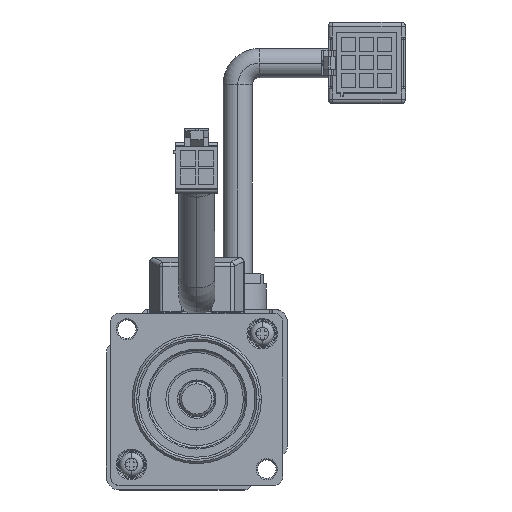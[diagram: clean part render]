
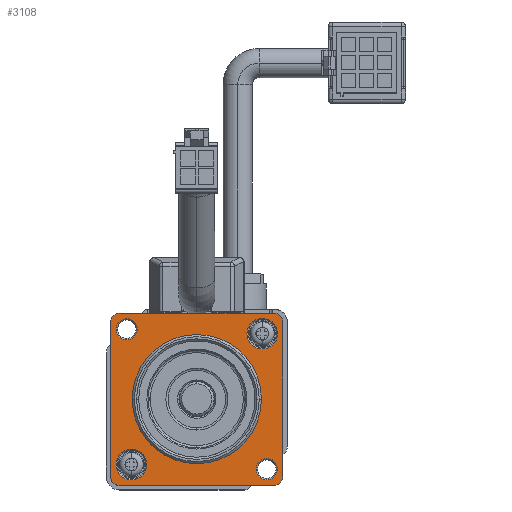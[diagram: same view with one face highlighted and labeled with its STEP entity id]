
A CAD part, top view. The second image highlights one B-rep face of the part: STEP entity #3108.
In plain terms, the highlighted planar face has unit normal (0, 0, 1) as drawn and (0, 0, -1) by its records, which use the part's own axes.
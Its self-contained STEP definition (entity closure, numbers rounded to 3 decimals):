
#1273=CARTESIAN_POINT('',(0.,0.,2.5));
#1274=DIRECTION('',(0.,0.,1.));
#1275=DIRECTION('',(0.,-1.,0.));
#1276=AXIS2_PLACEMENT_3D('',#1273,#1274,#1275);
#1278=CARTESIAN_POINT('',(0.,0.,2.5));
#1279=DIRECTION('',(0.,0.,1.));
#1280=DIRECTION('',(0.,1.,0.));
#1281=AXIS2_PLACEMENT_3D('',#1278,#1279,#1280);
#1283=CARTESIAN_POINT('',(18.,-18.,2.5));
#1284=DIRECTION('',(0.,0.,-1.));
#1285=DIRECTION('',(1.,0.,0.));
#1286=AXIS2_PLACEMENT_3D('',#1283,#1284,#1285);
#1288=CARTESIAN_POINT('',(18.,18.,2.5));
#1289=DIRECTION('',(0.,0.,-1.));
#1290=DIRECTION('',(0.,1.,0.));
#1291=AXIS2_PLACEMENT_3D('',#1288,#1289,#1290);
#1293=CARTESIAN_POINT('',(-18.,18.,2.5));
#1294=DIRECTION('',(0.,0.,-1.));
#1295=DIRECTION('',(-1.,0.,0.));
#1296=AXIS2_PLACEMENT_3D('',#1293,#1294,#1295);
#1298=CARTESIAN_POINT('',(-18.,-18.,2.5));
#1299=DIRECTION('',(0.,0.,-1.));
#1300=DIRECTION('',(0.,-1.,0.));
#1301=AXIS2_PLACEMENT_3D('',#1298,#1299,#1300);
#1303=CARTESIAN_POINT('',(15.203,15.203,2.5));
#1304=DIRECTION('',(0.,0.,-1.));
#1305=DIRECTION('',(0.,1.,0.));
#1306=AXIS2_PLACEMENT_3D('',#1303,#1304,#1305);
#1321=CARTESIAN_POINT('',(15.203,15.203,2.5));
#1322=DIRECTION('',(0.,0.,-1.));
#1323=DIRECTION('',(0.,-1.,0.));
#1324=AXIS2_PLACEMENT_3D('',#1321,#1322,#1323);
#1363=CARTESIAN_POINT('',(-15.203,-15.203,2.5));
#1364=DIRECTION('',(0.,0.,-1.));
#1365=DIRECTION('',(0.,1.,0.));
#1366=AXIS2_PLACEMENT_3D('',#1363,#1364,#1365);
#1373=CARTESIAN_POINT('',(-15.203,-15.203,2.5));
#1374=DIRECTION('',(0.,0.,-1.));
#1375=DIRECTION('',(0.,-1.,0.));
#1376=AXIS2_PLACEMENT_3D('',#1373,#1374,#1375);
#1659=DIRECTION('',(0.,1.,0.));
#1660=VECTOR('',#1659,36.);
#1661=CARTESIAN_POINT('',(-20.,-18.,2.5));
#1662=LINE('',#1661,#1660);
#1802=CARTESIAN_POINT('',(-16.263,16.263,2.5));
#1803=DIRECTION('',(0.,0.,-1.));
#1804=DIRECTION('',(1.,0.,0.));
#1805=AXIS2_PLACEMENT_3D('',#1802,#1803,#1804);
#1812=CARTESIAN_POINT('',(-16.263,16.263,2.5));
#1813=DIRECTION('',(0.,0.,-1.));
#1814=DIRECTION('',(-1.,0.,0.));
#1815=AXIS2_PLACEMENT_3D('',#1812,#1813,#1814);
#1866=CARTESIAN_POINT('',(16.263,-16.263,2.5));
#1867=DIRECTION('',(0.,0.,-1.));
#1868=DIRECTION('',(1.,0.,0.));
#1869=AXIS2_PLACEMENT_3D('',#1866,#1867,#1868);
#1884=CARTESIAN_POINT('',(16.263,-16.263,2.5));
#1885=DIRECTION('',(0.,0.,-1.));
#1886=DIRECTION('',(-1.,0.,0.));
#1887=AXIS2_PLACEMENT_3D('',#1884,#1885,#1886);
#1916=DIRECTION('',(1.,0.,0.));
#1917=VECTOR('',#1916,36.);
#1918=CARTESIAN_POINT('',(-18.,20.,2.5));
#1919=LINE('',#1918,#1917);
#2125=DIRECTION('',(0.,-1.,0.));
#2126=VECTOR('',#2125,36.);
#2127=CARTESIAN_POINT('',(20.,18.,2.5));
#2128=LINE('',#2127,#2126);
#2217=DIRECTION('',(-1.,0.,0.));
#2218=VECTOR('',#2217,36.);
#2219=CARTESIAN_POINT('',(18.,-20.,2.5));
#2220=LINE('',#2219,#2218);
#2651=CARTESIAN_POINT('',(0.,-15.,2.5));
#2652=CARTESIAN_POINT('',(0.,15.,2.5));
#2653=VERTEX_POINT('',#2651);
#2654=VERTEX_POINT('',#2652);
#2679=CARTESIAN_POINT('',(20.,-18.,2.5));
#2680=CARTESIAN_POINT('',(18.,-20.,2.5));
#2681=VERTEX_POINT('',#2679);
#2682=VERTEX_POINT('',#2680);
#2683=CARTESIAN_POINT('',(18.,20.,2.5));
#2684=CARTESIAN_POINT('',(20.,18.,2.5));
#2685=VERTEX_POINT('',#2683);
#2686=VERTEX_POINT('',#2684);
#2687=CARTESIAN_POINT('',(-18.,-20.,2.5));
#2688=CARTESIAN_POINT('',(-20.,-18.,2.5));
#2689=VERTEX_POINT('',#2687);
#2690=VERTEX_POINT('',#2688);
#2691=CARTESIAN_POINT('',(-20.,18.,2.5));
#2692=CARTESIAN_POINT('',(-18.,20.,2.5));
#2693=VERTEX_POINT('',#2691);
#2694=VERTEX_POINT('',#2692);
#2903=CARTESIAN_POINT('',(-13.813,16.263,2.5));
#2904=CARTESIAN_POINT('',(-18.713,16.263,2.5));
#2905=VERTEX_POINT('',#2903);
#2906=VERTEX_POINT('',#2904);
#2911=CARTESIAN_POINT('',(15.203,11.653,2.5));
#2912=CARTESIAN_POINT('',(15.203,18.753,2.5));
#2913=VERTEX_POINT('',#2911);
#2914=VERTEX_POINT('',#2912);
#2935=CARTESIAN_POINT('',(13.813,-16.263,2.5));
#2936=CARTESIAN_POINT('',(18.713,-16.263,2.5));
#2937=VERTEX_POINT('',#2935);
#2938=VERTEX_POINT('',#2936);
#2943=CARTESIAN_POINT('',(-15.203,-11.653,2.5));
#2944=CARTESIAN_POINT('',(-15.203,-18.753,2.5));
#2945=VERTEX_POINT('',#2943);
#2946=VERTEX_POINT('',#2944);
#3057=CARTESIAN_POINT('',(0.,0.,2.5));
#3058=DIRECTION('',(0.,0.,-1.));
#3059=DIRECTION('',(0.,-1.,0.));
#3060=AXIS2_PLACEMENT_3D('',#3057,#3058,#3059);
#3061=PLANE('',#3060);
#3063=ORIENTED_EDGE('',*,*,#3062,.F.);
#3065=ORIENTED_EDGE('',*,*,#3064,.F.);
#3067=ORIENTED_EDGE('',*,*,#3066,.F.);
#3069=ORIENTED_EDGE('',*,*,#3068,.F.);
#3071=ORIENTED_EDGE('',*,*,#3070,.F.);
#3073=ORIENTED_EDGE('',*,*,#3072,.F.);
#3075=ORIENTED_EDGE('',*,*,#3074,.F.);
#3077=ORIENTED_EDGE('',*,*,#3076,.F.);
#3078=EDGE_LOOP('',(#3063,#3065,#3067,#3069,#3071,#3073,#3075,#3077));
#3079=FACE_OUTER_BOUND('',#3078,.F.);
#3080=ORIENTED_EDGE('',*,*,#3051,.F.);
#3081=ORIENTED_EDGE('',*,*,#3037,.F.);
#3082=EDGE_LOOP('',(#3080,#3081));
#3083=FACE_BOUND('',#3082,.F.);
#3085=ORIENTED_EDGE('',*,*,#3084,.T.);
#3087=ORIENTED_EDGE('',*,*,#3086,.T.);
#3088=EDGE_LOOP('',(#3085,#3087));
#3089=FACE_BOUND('',#3088,.F.);
#3091=ORIENTED_EDGE('',*,*,#3090,.T.);
#3093=ORIENTED_EDGE('',*,*,#3092,.T.);
#3094=EDGE_LOOP('',(#3091,#3093));
#3095=FACE_BOUND('',#3094,.F.);
#3097=ORIENTED_EDGE('',*,*,#3096,.T.);
#3099=ORIENTED_EDGE('',*,*,#3098,.T.);
#3100=EDGE_LOOP('',(#3097,#3099));
#3101=FACE_BOUND('',#3100,.F.);
#3103=ORIENTED_EDGE('',*,*,#3102,.T.);
#3105=ORIENTED_EDGE('',*,*,#3104,.T.);
#3106=EDGE_LOOP('',(#3103,#3105));
#3107=FACE_BOUND('',#3106,.F.);
#3108=ADVANCED_FACE('',(#3079,#3083,#3089,#3095,#3101,#3107),#3061,.T.);
#1277=CIRCLE('',#1276,15.);
#1282=CIRCLE('',#1281,15.);
#1287=CIRCLE('',#1286,2.);
#1292=CIRCLE('',#1291,2.);
#1297=CIRCLE('',#1296,2.);
#1302=CIRCLE('',#1301,2.);
#1307=CIRCLE('',#1306,3.55);
#1325=CIRCLE('',#1324,3.55);
#1367=CIRCLE('',#1366,3.55);
#1377=CIRCLE('',#1376,3.55);
#1806=CIRCLE('',#1805,2.45);
#1816=CIRCLE('',#1815,2.45);
#1870=CIRCLE('',#1869,2.45);
#1888=CIRCLE('',#1887,2.45);
#3037=EDGE_CURVE('',#2654,#2653,#1282,.T.);
#3051=EDGE_CURVE('',#2653,#2654,#1277,.T.);
#3062=EDGE_CURVE('',#2681,#2682,#1287,.T.);
#3064=EDGE_CURVE('',#2686,#2681,#2128,.T.);
#3066=EDGE_CURVE('',#2685,#2686,#1292,.T.);
#3068=EDGE_CURVE('',#2694,#2685,#1919,.T.);
#3070=EDGE_CURVE('',#2693,#2694,#1297,.T.);
#3072=EDGE_CURVE('',#2690,#2693,#1662,.T.);
#3074=EDGE_CURVE('',#2689,#2690,#1302,.T.);
#3076=EDGE_CURVE('',#2682,#2689,#2220,.T.);
#3084=EDGE_CURVE('',#2914,#2913,#1307,.T.);
#3086=EDGE_CURVE('',#2913,#2914,#1325,.T.);
#3090=EDGE_CURVE('',#2945,#2946,#1367,.T.);
#3092=EDGE_CURVE('',#2946,#2945,#1377,.T.);
#3096=EDGE_CURVE('',#2906,#2905,#1816,.T.);
#3098=EDGE_CURVE('',#2905,#2906,#1806,.T.);
#3102=EDGE_CURVE('',#2937,#2938,#1888,.T.);
#3104=EDGE_CURVE('',#2938,#2937,#1870,.T.);
